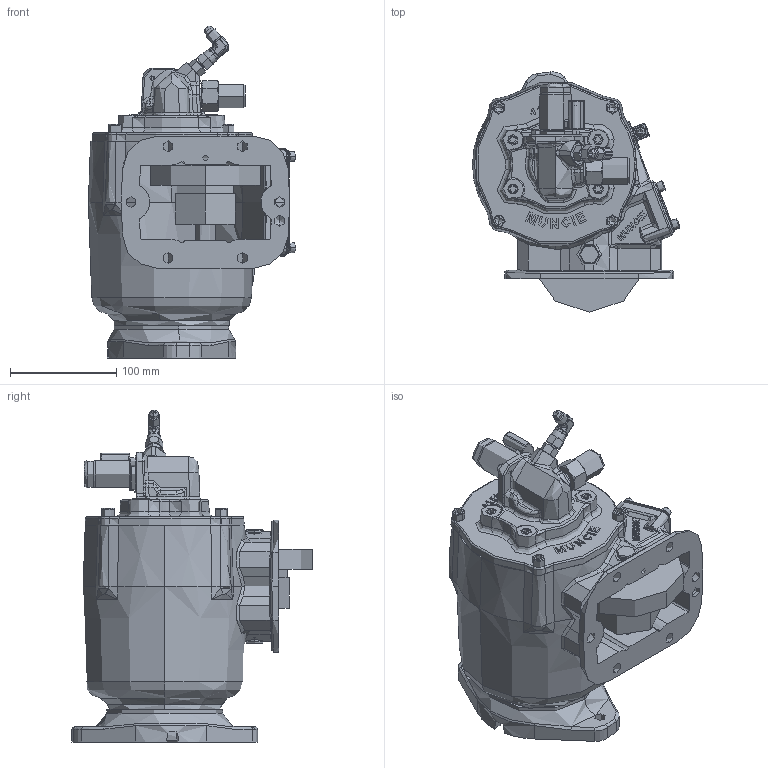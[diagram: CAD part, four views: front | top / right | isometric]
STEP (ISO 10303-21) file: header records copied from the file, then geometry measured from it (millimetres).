
FILE_DESCRIPTION (( 'STEP AP203' ), '1' );
FILE_NAME ('CS6B-I84XX-G1SX.STEP', '2023-02-24T13:50:44', ( '' ), ( '' ), 'SwSTEP 2.0', 'SolidWorks 2021', '' );
FILE_SCHEMA (( 'CONFIG_CONTROL_DESIGN' ));
Length unit declared in the file: inch
Products named in the file (17): 19T35237; 43T36431; 43T36445a; Input Gear abstract (CS6-CS8); 07T37071; 35T40860a; 19T40859; 15T41597; CS6B-I84XX-G1SX; 19T41118; 01t37073a; 43t37503-2; 25T21684-1; 43T37385; 14T35464; 16T41119; 30T41642
Assembly tree (27 placements, depth 2):
  CS6B-I84XX-G1SX
    01t37073a
    16T41119
    14T35464
    Input Gear abstract (CS6-CS8)
    19T41118  x4
    19T35237  x4
    15T41597
    35T40860a
    43T37385
    43T36431
    43T36445a
    43t37503-2
    25T21684-1  x5
    07T37071
    19T40859  x2
    30T41642
Bounding box: 194.82 x 226.16 x 312.17 mm (x, y, z)
Topology: 26 solids, 30 shells, 2624 faces, 6567 edges, 4070 vertices
Faces by surface type: bspline 779, plane 671, cylinder 668, cone 347, torus 155, sphere 4
Entity records: 146492 total; most frequent: CARTESIAN_POINT 92660, ORIENTED_EDGE 12042, DIRECTION 8661, EDGE_CURVE 6023, VERTEX_POINT 3775, AXIS2_PLACEMENT_3D 3276, EDGE_LOOP 2654, FACE_OUTER_BOUND 2411
